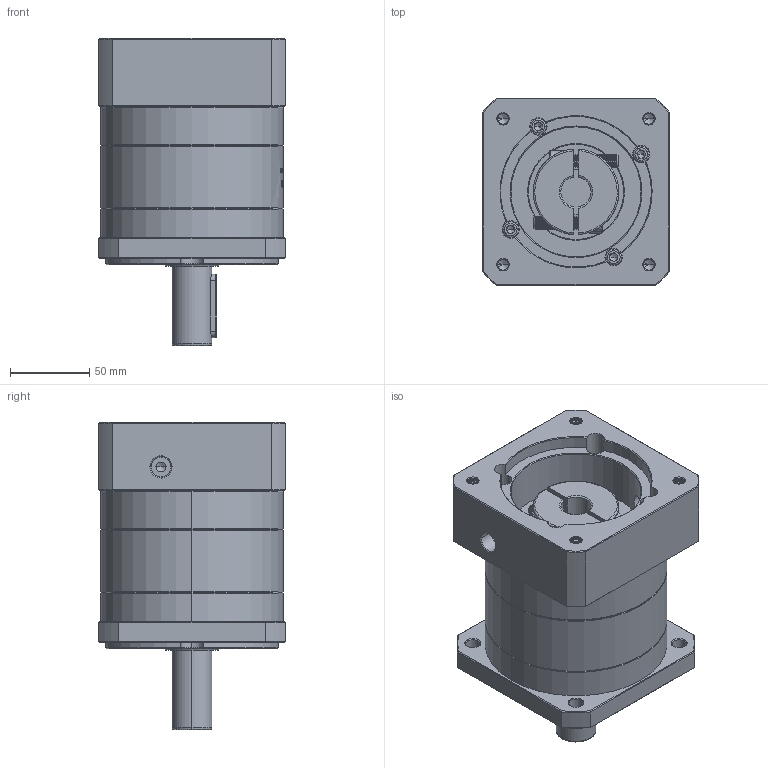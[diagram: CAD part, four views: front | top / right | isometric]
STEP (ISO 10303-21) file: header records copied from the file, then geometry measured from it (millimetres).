
FILE_DESCRIPTION (( 'STEP AP214' ), '1' );
FILE_NAME ('ZF120A-D25-L1-19-95-130-M8.step', '2023-03-07T09:28:05', ( '' ), ( '' ), 'SwSTEP 2.0', 'SolidWorks 2016', '' );
FILE_SCHEMA (( 'AUTOMOTIVE_DESIGN' ));
Length unit declared in the file: millimetre
Products named in the file (1): ZF120A-D25-L1-19-95-130-M8
Bounding box: 118 x 118 x 193.5 mm (x, y, z)
Volume: 1462203.3 mm3; surface area: 165556.3 mm2
Topology: 6 solids, 6 shells, 1951 faces, 5108 edges, 3251 vertices
Faces by surface type: plane 857, cylinder 425, cone 328, bspline 321, torus 20
Entity records: 107046 total; most frequent: CARTESIAN_POINT 41375, ORIENTED_EDGE 10156, DIRECTION 7880, EDGE_CURVE 5078, VERTEX_POINT 3251, VECTOR 2750, LINE 2750, AXIS2_PLACEMENT_3D 2565
